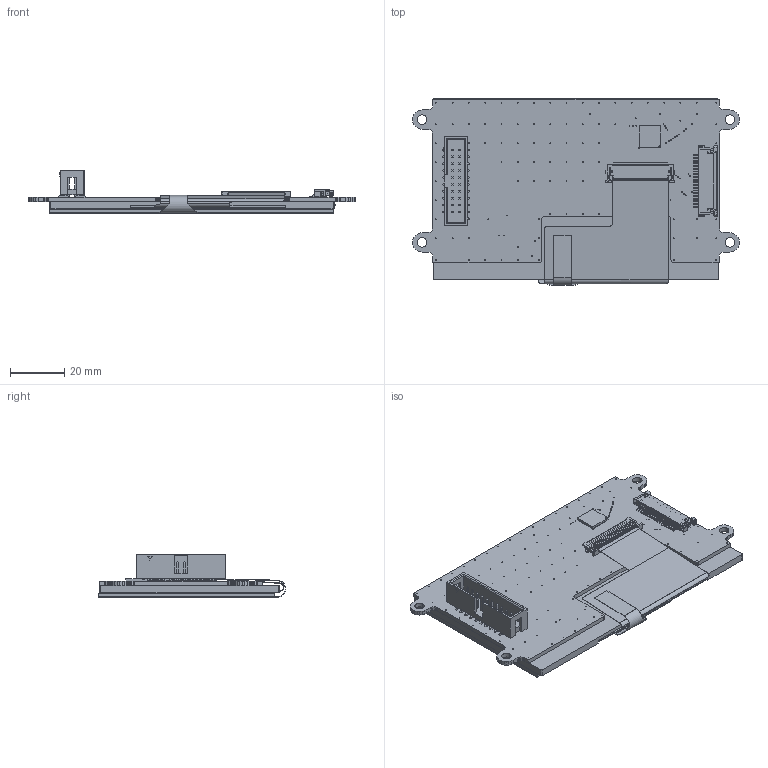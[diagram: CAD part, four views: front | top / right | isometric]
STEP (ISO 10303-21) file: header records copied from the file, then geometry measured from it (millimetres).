
FILE_DESCRIPTION (( 'STEP AP214' ), '1' );
FILE_NAME ('NHD-4.3-480272EF-EVE2-T.STEP', '2017-11-16T20:57:09', ( '' ), ( '' ), 'SwSTEP 2.0', 'SolidWorks 2017', '' );
FILE_SCHEMA (( 'AUTOMOTIVE_DESIGN' ));
Length unit declared in the file: millimetre
Products named in the file (9): MOLEX40; MOLEX20TC; IDC; NHD_4_3R__11092016_02-14-16; NHD-4.3-480272EF-EVE2-T; 4.3-T-TP top; NHD-4.3-480272EF-ASXN#-T; NHD-4.3R-FT812 Controller Board; QFN50P800X800X90-57N
Assembly tree (8 placements, depth 3):
  NHD-4.3-480272EF-EVE2-T
    NHD-4.3R-FT812 Controller Board
      NHD_4_3R__11092016_02-14-16
      IDC
      MOLEX20TC
      MOLEX40
      QFN50P800X800X90-57N
    NHD-4.3-480272EF-ASXN#-T
    4.3-T-TP top
Bounding box: 120.6 x 68.92 x 15.77 mm (x, y, z)
Volume: 11854.9 mm3; surface area: 62574.9 mm2
Topology: 10 solids, 16 shells, 4624 faces, 13872 edges, 9027 vertices
Faces by surface type: plane 3689, cylinder 828, cone 101, bspline 6
Entity records: 170846 total; most frequent: CARTESIAN_POINT 28236, ORIENTED_EDGE 27606, DIRECTION 24668, EDGE_CURVE 13828, LINE 11980, VECTOR 11980, VERTEX_POINT 9027, AXIS2_PLACEMENT_3D 6344
